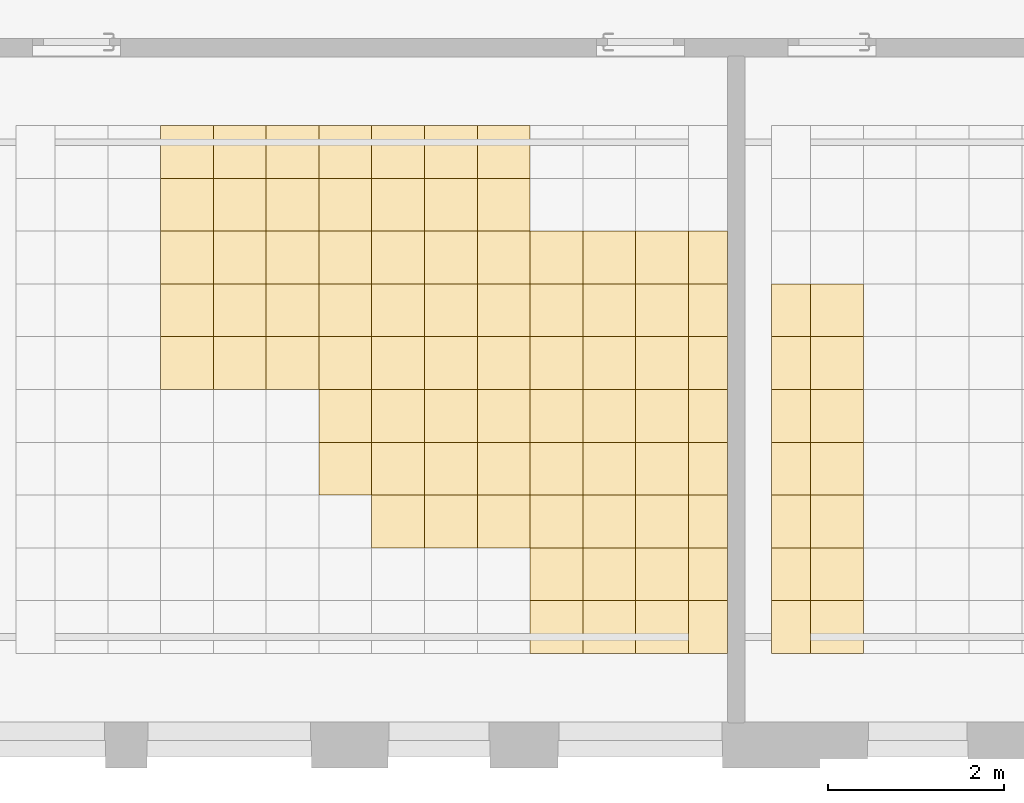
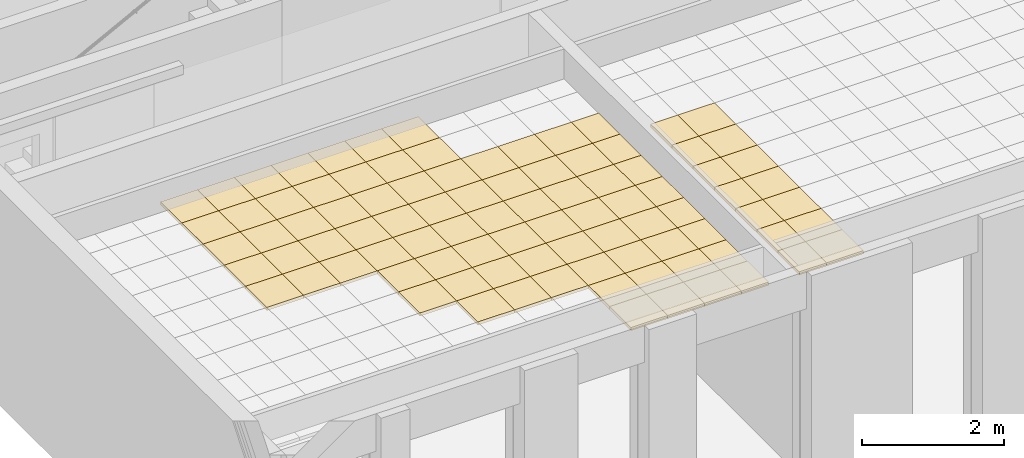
# One storey, part 65 of 79: 92 coverings.
"""IFC2X3 building model written with IfcOpenShell, lengths in millimetres."""

import ifcopenshell
import ifcopenshell.guid

model = None  # the IFC model being written
_history = None  # IfcOwnerHistory: only IFC2X3 demands one
_inside = {}  # id of a spatial element -> (the spatial element, [elements in it])
_under = {}  # id of a project, library or spatial element -> (it, [spatial elements below it])
_declared = {}  # id of a project -> (the project, [libraries it declares])
_typed = {}  # id of a type object -> (the type object, [elements of that type])
_made_of = {}  # id of a material, layer set ... -> (it, [elements and type objects made of it])


def new_model(schema):
    """Start an empty IFC model of exactly this schema.

    Asked for "IFC4X3", IfcOpenShell would pick the latest addendum, in which some entities
    have other attributes; the version numbers below select the first issue.
    IFC2X3 requires an IfcOwnerHistory on every rooted entity: one is made here for all.
    """
    global model, _history
    if schema == "IFC4X3":
        model = ifcopenshell.file(schema_version=(4, 3, 0, 0))
    else:
        model = ifcopenshell.file(schema=schema)
    _inside.clear()
    _under.clear()
    _declared.clear()
    _typed.clear()
    _made_of.clear()
    _history = None
    if model.schema == "IFC2X3":
        org = make("IfcOrganization", Name="unknown")
        user = make(
            "IfcPersonAndOrganization",
            ThePerson=make("IfcPerson", FamilyName="unknown"),
            TheOrganization=org,
        )
        app = make(
            "IfcApplication",
            ApplicationDeveloper=org,
            Version="unknown",
            ApplicationFullName="unknown",
            ApplicationIdentifier="unknown",
        )
        _history = make(
            "IfcOwnerHistory",
            OwningUser=user,
            OwningApplication=app,
            ChangeAction="ADDED",
            CreationDate=0,
        )
    return model


def make(cls, **values):
    """One entity of the class cls with the attributes given. An attribute that is None is left unset."""
    return model.create_entity(
        cls, **{name: value for name, value in values.items() if value is not None}
    )


def entity(cls, *values):
    """Any entity or typed value of the class cls, its attributes in the order of the schema. None: left unset."""
    e = model.create_entity(cls)
    for i, value in enumerate(values):
        if value is not None:
            e[i] = value
    return e


def rooted(cls, **values):
    """An entity with a GlobalId (a new one), such as an element, a storey or a relation."""
    return make(cls, GlobalId=ifcopenshell.guid.new(), OwnerHistory=_history, **values)


def si_unit(unit_type, name, prefix=None):
    """IfcSIUnit, for example si_unit("LENGTHUNIT", "METRE", prefix="MILLI")."""
    return make("IfcSIUnit", UnitType=unit_type, Prefix=prefix, Name=name)


def converted_unit(unit_type, name, factor, base, dimensions=None, offset=None):
    """IfcConversionBasedUnit, such as the inch: factor (a typed value) times the base unit."""
    return make(
        "IfcConversionBasedUnit"
        if offset is None
        else "IfcConversionBasedUnitWithOffset",
        ConversionOffset=offset,
        Dimensions=None
        if dimensions is None
        else entity("IfcDimensionalExponents", *dimensions),
        UnitType=unit_type,
        Name=name,
        ConversionFactor=make(
            "IfcMeasureWithUnit", ValueComponent=factor, UnitComponent=base
        ),
    )


def derived_unit(unit_type, elements):
    """IfcDerivedUnit: a product of units, each with its exponent."""
    return make(
        "IfcDerivedUnit",
        Elements=[
            make("IfcDerivedUnitElement", Unit=unit, Exponent=power)
            for unit, power in elements
        ],
        UnitType=unit_type,
    )


def money_unit(currency):
    """IfcMonetaryUnit."""
    return make("IfcMonetaryUnit", Currency=currency)


def assignment(units):
    """IfcUnitAssignment: the units of a project."""
    return None if units is None else make("IfcUnitAssignment", Units=units)


def point(xyz):
    """IfcCartesianPoint."""
    return None if xyz is None else make("IfcCartesianPoint", Coordinates=xyz)


def direction(xyz):
    """IfcDirection."""
    return None if xyz is None else make("IfcDirection", DirectionRatios=xyz)


def frame(location, z_axis=None, x_axis=None):
    """IfcAxis2Placement3D, a coordinate frame: its origin and axes. An axis left out is left unset."""
    return make(
        "IfcAxis2Placement3D",
        Location=point(location),
        Axis=direction(z_axis),
        RefDirection=direction(x_axis),
    )


def origin_with_axes():
    """The frame at (0, 0, 0) with the z axis (0, 0, 1) and the x axis (1, 0, 0) written out."""
    return frame((0.0, 0.0, 0.0), z_axis=(0.0, 0.0, 1.0), x_axis=(1.0, 0.0, 0.0))


def place(relative_to, where):
    """IfcLocalPlacement: puts the frame where relative to a parent placement (None: the world)."""
    return make(
        "IfcLocalPlacement", PlacementRelTo=relative_to, RelativePlacement=where
    )


def context(
    kind, dimensions, precision=None, world=None, true_north=None, identifier=None
):
    """IfcGeometricRepresentationContext, for example the 3D "Model" context."""
    return make(
        "IfcGeometricRepresentationContext",
        ContextIdentifier=identifier,
        ContextType=kind,
        CoordinateSpaceDimension=dimensions,
        Precision=precision,
        WorldCoordinateSystem=world,
        TrueNorth=true_north,
    )


def subcontext(parent, identifier, kind, view, scale=None):
    """IfcGeometricRepresentationSubContext, for example "Body" below "Model"."""
    return make(
        "IfcGeometricRepresentationSubContext",
        ContextIdentifier=identifier,
        ContextType=kind,
        ParentContext=parent,
        TargetScale=scale,
        TargetView=view,
    )


def project(units=None, contexts=None):
    """IfcProject with its units and contexts."""
    return rooted(
        "IfcProject",
        Name="project",
        RepresentationContexts=contexts,
        UnitsInContext=assignment(units),
    )


def spatial(cls, under=None, at=None, **own):
    """A site, building, storey or space (cls), placed at a placement, below another one or the project."""
    s = rooted(cls, ObjectPlacement=at, **own)
    if under is not None:
        _under.setdefault(under.id(), (under, []))[1].append(s)
    return s


def faces_of(points, faces, orient=None, outer=None):
    """IfcFace entities. A face is a list of loops; a loop is a list of indices into points, from 0.

    orient and outer hold one flag for each loop. By default every Orientation is true, the
    first loop of a face is its IfcFaceOuterBound and the others are IfcFaceBound.
    """
    made = []
    for i, loops in enumerate(faces):
        bounds = []
        for j, loop in enumerate(loops):
            is_outer = j == 0 if outer is None else outer[i][j]
            bounds.append(
                make(
                    "IfcFaceOuterBound" if is_outer else "IfcFaceBound",
                    Bound=make("IfcPolyLoop", Polygon=[points[k] for k in loop]),
                    Orientation=True if orient is None else orient[i][j],
                )
            )
        made.append(make("IfcFace", Bounds=bounds))
    return made


def faceted_brep(points, faces, orient=None, outer=None, voids=None):
    """IfcFacetedBrep: a solid bounded by flat faces; with voids (closed shells), ...WithVoids."""
    shared = [point(p) for p in points]
    hull = make("IfcClosedShell", CfsFaces=faces_of(shared, faces, orient, outer))
    if voids is None:
        return make("IfcFacetedBrep", Outer=hull)
    return make(
        "IfcFacetedBrepWithVoids",
        Outer=hull,
        Voids=[
            make(cls, CfsFaces=faces_of(shared, fs, o, b)) for cls, fs, o, b in voids
        ],
    )


def shape(context_of_items, identifier, shape_type, items):
    """IfcShapeRepresentation: the items that make up one representation, for example the "Body"."""
    return make(
        "IfcShapeRepresentation",
        ContextOfItems=context_of_items,
        RepresentationIdentifier=identifier,
        RepresentationType=shape_type,
        Items=items,
    )


def material(Name=None, Category=None):
    """IfcMaterial."""
    return make("IfcMaterial", Name=Name, Category=Category)


def material_list(materials):
    """IfcMaterialList."""
    return make("IfcMaterialList", Materials=materials)


def made_of(thing, what):
    """Note that an element or type object is made of a material, layer set ...; save() writes the relation."""
    if what is not None:
        _made_of.setdefault(what.id(), (what, []))[1].append(thing)
    return thing


def type_object(cls, material=None, **own):
    """A type object (cls), such as IfcWallType, which elements share."""
    return made_of(rooted(cls, **own), material)


def element(
    cls,
    number,
    at=None,
    inside=None,
    cuts=None,
    type_object=None,
    material=None,
    context=None,
    identifier="Body",
    shape_type=None,
    held_by="IfcProductDefinitionShape",
    body=None,
    shapes=None,
    **own,
):
    """One element of the class cls, such as IfcWall. Its Tag is "e" and its number.

    at: its placement. inside: the storey or other place that contains it. cuts: it is an
    opening in that element (IfcRelVoidsElement). A single representation is given by context,
    identifier, shape_type and body (its items); several are given by shapes. held_by: the class
    of the entity that holds the representations. save() writes the other relations.
    """
    e = rooted(cls, Tag="e%d" % number, ObjectPlacement=at, **own)
    if body is not None:
        shapes = [shape(context, identifier, shape_type, body)]
    if shapes is not None:
        e.Representation = make(held_by, Representations=shapes)
    if inside is not None:
        _inside.setdefault(inside.id(), (inside, []))[1].append(e)
    if cuts is not None:
        rooted(
            "IfcRelVoidsElement", RelatingBuildingElement=cuts, RelatedOpeningElement=e
        )
    if type_object is not None:
        _typed.setdefault(type_object.id(), (type_object, []))[1].append(e)
    return made_of(e, material)


def aggregate(whole, parts):
    """IfcRelAggregates: a whole, such as a stair, and the parts it consists of."""
    return rooted("IfcRelAggregates", RelatingObject=whole, RelatedObjects=parts)


def save(model, path):
    """Write the relations noted so far, then the file.

    IfcRelAggregates (storeys below a building ...), IfcRelContainedInSpatialStructure (elements
    in a storey), IfcRelDefinesByType, IfcRelAssociatesMaterial and IfcRelDeclares: one each for
    every whole, place, type object, material and project.
    """
    for whole, parts in _under.values():
        aggregate(whole, parts)
    for where, things in _inside.values():
        rooted(
            "IfcRelContainedInSpatialStructure",
            RelatedElements=things,
            RelatingStructure=where,
        )
    for kind, things in _typed.values():
        rooted("IfcRelDefinesByType", RelatedObjects=things, RelatingType=kind)
    for what, things in _made_of.values():
        rooted("IfcRelAssociatesMaterial", RelatedObjects=things, RelatingMaterial=what)
    for by, libraries in _declared.values():
        rooted("IfcRelDeclares", RelatingContext=by, RelatedDefinitions=libraries)
    model.write(path)


model = new_model("IFC2X3")

# Units and contexts
model_context = context("Model", 3, precision=0.01, world=origin_with_axes(), true_north=direction((0.0, 1.0)))
body_context = subcontext(model_context, "Body", "Model", "MODEL_VIEW")
ifc_project = project(units=[si_unit("LENGTHUNIT", "METRE", prefix="MILLI"), si_unit("AREAUNIT", "SQUARE_METRE"), si_unit("VOLUMEUNIT", "CUBIC_METRE"), converted_unit("PLANEANGLEUNIT", "DEGREE", entity("IfcPlaneAngleMeasure", 0.0174532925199), si_unit("PLANEANGLEUNIT", "RADIAN"), dimensions=[0, 0, 0, 0, 0, 0, 0]), si_unit("SOLIDANGLEUNIT", "STERADIAN"), money_unit("EUR"), converted_unit("TIMEUNIT", "Year", entity("IfcTimeMeasure", 31556926.0), si_unit("TIMEUNIT", "SECOND"), dimensions=[0, 0, 1, 0, 0, 0, 0]), si_unit("MASSUNIT", "GRAM", prefix="KILO"), si_unit("THERMODYNAMICTEMPERATUREUNIT", "DEGREE_CELSIUS"), si_unit("LUMINOUSINTENSITYUNIT", "LUMEN"), si_unit("ENERGYUNIT", "JOULE", prefix="MEGA"), derived_unit("THERMALCONDUCTANCEUNIT", [(si_unit("POWERUNIT", "WATT"), 1), (si_unit("LENGTHUNIT", "METRE"), -1), (si_unit("THERMODYNAMICTEMPERATUREUNIT", "KELVIN"), -1)]), derived_unit("SPECIFICHEATCAPACITYUNIT", [(si_unit("ENERGYUNIT", "JOULE"), 1), (si_unit("MASSUNIT", "GRAM", prefix="KILO"), -1), (si_unit("THERMODYNAMICTEMPERATUREUNIT", "KELVIN"), -1)]), derived_unit("MASSDENSITYUNIT", [(si_unit("MASSUNIT", "GRAM", prefix="KILO"), 1), (si_unit("VOLUMEUNIT", "CUBIC_METRE"), -1)])], contexts=[model_context])

# Site, building, storey
site_placement = place(None, origin_with_axes())
site = spatial("IfcSite", under=ifc_project, at=site_placement, Name="L.Koidula tn 11b", CompositionType="ELEMENT")
building_placement = place(site_placement, origin_with_axes())
building = spatial("IfcBuilding", under=site, at=building_placement, Name="Rakvere Riigigümnaasium", CompositionType="ELEMENT")
storey_placement = place(building_placement, frame((0.0, 0.0, 3720.0), z_axis=(0.0, 0.0, 1.0), x_axis=(1.0, 0.0, 0.0)))
storey = spatial("IfcBuildingStorey", under=building, at=storey_placement, Name="2.korrus +3,72", CompositionType="ELEMENT", Elevation=3720.0)

# Coverings
ifc_material_1 = material(Name="Karkass")
ifc_material_2 = material(Name="Kipsplaat")
ifc_material_list = material_list([ifc_material_1, ifc_material_2])
covering_type = type_object("IfcCoveringType", Name="SA-LV-Kips-moodul 55", PredefinedType="CEILING")
for number, where, z_axis, x_axis, name in (
    (1, (44844.8404937, 6890.45359412, 2750.0), (0.0, 0.0, 1.0), (1.0, 0.0, 0.0), "L-03"),
    (2, (44844.8404937, 6290.45359412, 2750.0), (0.0, 0.0, 1.0), (1.0, 0.0, 0.0), "L-03"),
    (3, (44844.8404937, 7490.45359412, 2750.0), (0.0, 0.0, 1.0), (1.0, 0.0, 0.0), "L-03"),
    (4, (44844.8404937, 8690.45359412, 2750.0), (0.0, 0.0, 1.0), (1.0, 0.0, 0.0), "L-03"),
    (5, (44844.8404937, 8090.45359412, 2750.0), (0.0, 0.0, 1.0), (1.0, 0.0, 0.0), "L-03"),
    (6, (44844.8404937, 9290.45359412, 2750.0), (0.0, 0.0, 1.0), (1.0, 0.0, 0.0), "L-03"),
    (7, (44844.8404937, 9890.45359412, 2750.0), (0.0, 0.0, 1.0), (1.0, 0.0, 0.0), "L-03"),
):
    element("IfcCovering", number, at=place(storey_placement, frame(where, z_axis=z_axis, x_axis=x_axis)), inside=storey, type_object=covering_type, material=ifc_material_list, Name=name, PredefinedType="CEILING", context=body_context, shape_type="Brep", body=[
        faceted_brep([(599.999948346, 0.0, 12.5), (599.999948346, 0.0, 54.5), (0.0, 0.0, 54.5), (0.0, 0.0, 12.5), (599.999948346, 600.0, 12.5), (599.999948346, 600.0, 54.5), (0.0, 600.0, 54.5), (0.0, 600.0, 12.5)], [[[0, 1, 2, 3]], [[4, 5, 1, 0]], [[2, 1, 5, 6]], [[3, 2, 6, 7]], [[3, 7, 4, 0]], [[7, 6, 5, 4]]]),
        faceted_brep([(0.0, 0.0, 0.0), (599.999948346, 0.0, 0.0), (599.999948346, 0.0, 12.5), (0.0, 0.0, 12.5), (0.0, 600.0, 0.0), (599.999948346, 600.0, 0.0), (599.999948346, 600.0, 12.5), (0.0, 600.0, 12.5)], [[[0, 1, 2, 3]], [[0, 4, 5, 1]], [[1, 5, 6, 2]], [[3, 2, 6, 7]], [[4, 0, 3, 7]], [[5, 4, 7, 6]]]),
    ])
for number, where, z_axis, x_axis, name in (
    (8, (44400.0000025, 8690.45359412, 2750.0), (0.0, 0.0, 1.0), (1.0, 0.0, 0.0), "L-03"),
    (9, (44400.0000025, 8090.45359412, 2750.0), (0.0, 0.0, 1.0), (1.0, 0.0, 0.0), "L-03"),
    (10, (44400.0000025, 7490.45359412, 2750.0), (0.0, 0.0, 1.0), (1.0, 0.0, 0.0), "L-03"),
    (11, (44400.0000025, 9890.45359412, 2750.0), (0.0, 0.0, 1.0), (1.0, 0.0, 0.0), "L-03"),
    (12, (44400.0000025, 6890.45359412, 2750.0), (0.0, 0.0, 1.0), (1.0, 0.0, 0.0), "L-03"),
    (13, (44400.0000025, 6290.45359412, 2750.0), (0.0, 0.0, 1.0), (1.0, 0.0, 0.0), "L-03"),
    (14, (44400.0000025, 9290.45359412, 2750.0), (0.0, 0.0, 1.0), (1.0, 0.0, 0.0), "L-03"),
):
    element("IfcCovering", number, at=place(storey_placement, frame(where, z_axis=z_axis, x_axis=x_axis)), inside=storey, type_object=covering_type, material=ifc_material_list, Name=name, PredefinedType="CEILING", context=body_context, shape_type="Brep", body=[
        faceted_brep([(444.84049122, 0.0, 12.5), (444.84049122, 0.0, 54.5), (0.0, 0.0, 54.5), (0.0, 0.0, 12.5), (444.84049122, 600.0, 12.5), (444.84049122, 600.0, 54.5), (0.0, 600.0, 54.5), (0.0, 600.0, 12.5)], [[[0, 1, 2, 3]], [[4, 5, 1, 0]], [[2, 1, 5, 6]], [[3, 2, 6, 7]], [[3, 7, 4, 0]], [[7, 6, 5, 4]]]),
        faceted_brep([(0.0, 0.0, 0.0), (444.84049122, 0.0, 0.0), (444.84049122, 0.0, 12.5), (0.0, 0.0, 12.5), (0.0, 600.0, 0.0), (444.84049122, 600.0, 0.0), (444.84049122, 600.0, 12.5), (0.0, 600.0, 12.5)], [[[0, 1, 2, 3]], [[0, 4, 5, 1]], [[1, 5, 6, 2]], [[3, 2, 6, 7]], [[4, 0, 3, 7]], [[5, 4, 7, 6]]]),
    ])
covering_1_placement = place(storey_placement, frame((39255.1638647, 11090.4535941, 2750.0), z_axis=(0.0, 0.0, 1.0), x_axis=(1.0, 0.0, 0.0)))
element("IfcCovering", 15, at=covering_1_placement, inside=storey, type_object=covering_type, material=ifc_material_list, Name="L-03", PredefinedType="CEILING", context=body_context, shape_type="Brep", body=[
    faceted_brep([(600.0, 0.0, 12.5), (600.0, 0.0, 54.5), (0.0, 0.0, 54.5), (0.0, 0.0, 12.5), (600.0, 600.0, 12.5), (600.0, 600.0, 54.5), (0.0, 600.0, 54.5), (0.0, 600.0, 12.5)], [[[0, 1, 2, 3]], [[4, 5, 1, 0]], [[2, 1, 5, 6]], [[3, 2, 6, 7]], [[3, 7, 4, 0]], [[7, 6, 5, 4]]]),
    faceted_brep([(0.0, 0.0, 0.0), (600.0, 0.0, 0.0), (600.0, 0.0, 12.5), (0.0, 0.0, 12.5), (0.0, 600.0, 0.0), (600.0, 600.0, 0.0), (600.0, 600.0, 12.5), (0.0, 600.0, 12.5)], [[[0, 1, 2, 3]], [[0, 4, 5, 1]], [[1, 5, 6, 2]], [[3, 2, 6, 7]], [[4, 0, 3, 7]], [[5, 4, 7, 6]]]),
])
covering_2_placement = place(storey_placement, frame((37455.163968, 11090.4535941, 2750.0), z_axis=(0.0, 0.0, 1.0), x_axis=(1.0, 0.0, 0.0)))
element("IfcCovering", 16, at=covering_2_placement, inside=storey, type_object=covering_type, material=ifc_material_list, Name="L-03", PredefinedType="CEILING", context=body_context, shape_type="Brep", body=[
    faceted_brep([(599.999948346, 0.0, 12.5), (599.999948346, 0.0, 54.5), (0.0, 0.0, 54.5), (0.0, 0.0, 12.5), (599.999948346, 600.0, 12.5), (599.999948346, 600.0, 54.5), (0.0, 600.0, 54.5), (0.0, 600.0, 12.5)], [[[0, 1, 2, 3]], [[4, 5, 1, 0]], [[2, 1, 5, 6]], [[3, 2, 6, 7]], [[3, 7, 4, 0]], [[7, 6, 5, 4]]]),
    faceted_brep([(0.0, 0.0, 0.0), (599.999948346, 0.0, 0.0), (599.999948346, 0.0, 12.5), (0.0, 0.0, 12.5), (0.0, 600.0, 0.0), (599.999948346, 600.0, 0.0), (599.999948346, 600.0, 12.5), (0.0, 600.0, 12.5)], [[[0, 1, 2, 3]], [[0, 4, 5, 1]], [[1, 5, 6, 2]], [[3, 2, 6, 7]], [[4, 0, 3, 7]], [[5, 4, 7, 6]]]),
])
for number, where, z_axis, x_axis, name in (
    (17, (40455.163813, 9890.45359412, 2750.0), (0.0, 0.0, 1.0), (1.0, 0.0, 0.0), "L-03"),
    (18, (41655.1637613, 9890.45359412, 2750.0), (0.0, 0.0, 1.0), (1.0, 0.0, 0.0), "L-03"),
    (19, (41655.1637613, 9290.45359412, 2750.0), (0.0, 0.0, 1.0), (1.0, 0.0, 0.0), "L-03"),
    (20, (40455.163813, 8090.45359412, 2750.0), (0.0, 0.0, 1.0), (1.0, 0.0, 0.0), "L-03"),
    (21, (41655.1637613, 8690.45359412, 2750.0), (0.0, 0.0, 1.0), (1.0, 0.0, 0.0), "L-03"),
    (22, (41655.1637613, 8090.45359412, 2750.0), (0.0, 0.0, 1.0), (1.0, 0.0, 0.0), "L-03"),
    (23, (41655.1637613, 7490.45359412, 2750.0), (0.0, 0.0, 1.0), (1.0, 0.0, 0.0), "L-03"),
    (24, (42855.1637097, 7490.45359412, 2750.0), (0.0, 0.0, 1.0), (1.0, 0.0, 0.0), "L-03"),
):
    element("IfcCovering", number, at=place(storey_placement, frame(where, z_axis=z_axis, x_axis=x_axis)), inside=storey, type_object=covering_type, material=ifc_material_list, Name=name, PredefinedType="CEILING", context=body_context, shape_type="Brep", body=[
        faceted_brep([(600.0, 0.0, 12.5), (600.0, 0.0, 54.5), (0.0, 0.0, 54.5), (0.0, 0.0, 12.5), (600.0, 600.0, 12.5), (600.0, 600.0, 54.5), (0.0, 600.0, 54.5), (0.0, 600.0, 12.5)], [[[0, 1, 2, 3]], [[4, 5, 1, 0]], [[2, 1, 5, 6]], [[3, 2, 6, 7]], [[3, 7, 4, 0]], [[7, 6, 5, 4]]]),
        faceted_brep([(0.0, 0.0, 0.0), (600.0, 0.0, 0.0), (600.0, 0.0, 12.5), (0.0, 0.0, 12.5), (0.0, 600.0, 0.0), (600.0, 600.0, 0.0), (600.0, 600.0, 12.5), (0.0, 600.0, 12.5)], [[[0, 1, 2, 3]], [[0, 4, 5, 1]], [[1, 5, 6, 2]], [[3, 2, 6, 7]], [[4, 0, 3, 7]], [[5, 4, 7, 6]]]),
    ])
covering_3_placement = place(storey_placement, frame((42255.1637613, 6890.45359412, 2750.0), z_axis=(0.0, 0.0, 1.0), x_axis=(1.0, 0.0, 0.0)))
element("IfcCovering", 25, at=covering_3_placement, inside=storey, type_object=covering_type, material=ifc_material_list, Name="L-03", PredefinedType="CEILING", context=body_context, shape_type="Brep", body=[
    faceted_brep([(599.999948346, 0.0, 12.5), (599.999948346, 0.0, 54.5), (0.0, 0.0, 54.5), (0.0, 0.0, 12.5), (599.999948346, 600.0, 12.5), (599.999948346, 600.0, 54.5), (0.0, 600.0, 54.5), (0.0, 600.0, 12.5)], [[[0, 1, 2, 3]], [[4, 5, 1, 0]], [[2, 1, 5, 6]], [[3, 2, 6, 7]], [[3, 7, 4, 0]], [[7, 6, 5, 4]]]),
    faceted_brep([(0.0, 0.0, 0.0), (599.999948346, 0.0, 0.0), (599.999948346, 0.0, 12.5), (0.0, 0.0, 12.5), (0.0, 600.0, 0.0), (599.999948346, 600.0, 0.0), (599.999948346, 600.0, 12.5), (0.0, 600.0, 12.5)], [[[0, 1, 2, 3]], [[0, 4, 5, 1]], [[1, 5, 6, 2]], [[3, 2, 6, 7]], [[4, 0, 3, 7]], [[5, 4, 7, 6]]]),
])
for number, where, z_axis, x_axis, name in (
    (26, (42855.1637097, 9290.45359412, 2750.0), (0.0, 0.0, 1.0), (1.0, 0.0, 0.0), "L-03"),
    (27, (42855.1637097, 8690.45359412, 2750.0), (0.0, 0.0, 1.0), (1.0, 0.0, 0.0), "L-03"),
):
    element("IfcCovering", number, at=place(storey_placement, frame(where, z_axis=z_axis, x_axis=x_axis)), inside=storey, type_object=covering_type, material=ifc_material_list, Name=name, PredefinedType="CEILING", context=body_context, shape_type="Brep", body=[
        faceted_brep([(600.0, 0.0, 12.5), (600.0, 0.0, 54.5), (0.0, 0.0, 54.5), (0.0, 0.0, 12.5), (600.0, 600.0, 12.5), (600.0, 600.0, 54.5), (0.0, 600.0, 54.5), (0.0, 600.0, 12.5)], [[[0, 1, 2, 3]], [[4, 5, 1, 0]], [[2, 1, 5, 6]], [[3, 2, 6, 7]], [[3, 7, 4, 0]], [[7, 6, 5, 4]]]),
        faceted_brep([(0.0, 0.0, 0.0), (600.0, 0.0, 0.0), (600.0, 0.0, 12.5), (0.0, 0.0, 12.5), (0.0, 600.0, 0.0), (600.0, 600.0, 0.0), (600.0, 600.0, 12.5), (0.0, 600.0, 12.5)], [[[0, 1, 2, 3]], [[0, 4, 5, 1]], [[1, 5, 6, 2]], [[3, 2, 6, 7]], [[4, 0, 3, 7]], [[5, 4, 7, 6]]]),
    ])
covering_4_placement = place(storey_placement, frame((42255.1637613, 6290.45359412, 2750.0), z_axis=(0.0, 0.0, 1.0), x_axis=(1.0, 0.0, 0.0)))
element("IfcCovering", 28, at=covering_4_placement, inside=storey, type_object=covering_type, material=ifc_material_list, Name="L-03", PredefinedType="CEILING", context=body_context, shape_type="Brep", body=[
    faceted_brep([(599.999948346, 0.0, 12.5), (599.999948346, 0.0, 54.5), (0.0, 0.0, 54.5), (0.0, 0.0, 12.5), (599.999948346, 600.0, 12.5), (599.999948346, 600.0, 54.5), (0.0, 600.0, 54.5), (0.0, 600.0, 12.5)], [[[0, 1, 2, 3]], [[4, 5, 1, 0]], [[2, 1, 5, 6]], [[3, 2, 6, 7]], [[3, 7, 4, 0]], [[7, 6, 5, 4]]]),
    faceted_brep([(0.0, 0.0, 0.0), (599.999948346, 0.0, 0.0), (599.999948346, 0.0, 12.5), (0.0, 0.0, 12.5), (0.0, 600.0, 0.0), (599.999948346, 600.0, 0.0), (599.999948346, 600.0, 12.5), (0.0, 600.0, 12.5)], [[[0, 1, 2, 3]], [[0, 4, 5, 1]], [[1, 5, 6, 2]], [[3, 2, 6, 7]], [[4, 0, 3, 7]], [[5, 4, 7, 6]]]),
])
for number, where, z_axis, x_axis, name in (
    (29, (42855.1637097, 8090.45359412, 2750.0), (0.0, 0.0, 1.0), (1.0, 0.0, 0.0), "L-03"),
    (30, (42855.1637097, 9890.45359412, 2750.0), (0.0, 0.0, 1.0), (1.0, 0.0, 0.0), "L-03"),
    (31, (42855.1637097, 10490.4535941, 2750.0), (0.0, 0.0, 1.0), (1.0, 0.0, 0.0), "L-03"),
    (32, (42855.1637097, 6290.45359412, 2750.0), (0.0, 0.0, 1.0), (1.0, 0.0, 0.0), "L-03"),
    (33, (42855.1637097, 6890.45359412, 2750.0), (0.0, 0.0, 1.0), (1.0, 0.0, 0.0), "L-03"),
):
    element("IfcCovering", number, at=place(storey_placement, frame(where, z_axis=z_axis, x_axis=x_axis)), inside=storey, type_object=covering_type, material=ifc_material_list, Name=name, PredefinedType="CEILING", context=body_context, shape_type="Brep", body=[
        faceted_brep([(600.0, 0.0, 12.5), (600.0, 0.0, 54.5), (0.0, 0.0, 54.5), (0.0, 0.0, 12.5), (600.0, 600.0, 12.5), (600.0, 600.0, 54.5), (0.0, 600.0, 54.5), (0.0, 600.0, 12.5)], [[[0, 1, 2, 3]], [[4, 5, 1, 0]], [[2, 1, 5, 6]], [[3, 2, 6, 7]], [[3, 7, 4, 0]], [[7, 6, 5, 4]]]),
        faceted_brep([(0.0, 0.0, 0.0), (600.0, 0.0, 0.0), (600.0, 0.0, 12.5), (0.0, 0.0, 12.5), (0.0, 600.0, 0.0), (600.0, 600.0, 0.0), (600.0, 600.0, 12.5), (0.0, 600.0, 12.5)], [[[0, 1, 2, 3]], [[0, 4, 5, 1]], [[1, 5, 6, 2]], [[3, 2, 6, 7]], [[4, 0, 3, 7]], [[5, 4, 7, 6]]]),
    ])
covering_5_placement = place(storey_placement, frame((42255.1637613, 7490.45359412, 2750.0), z_axis=(0.0, 0.0, 1.0), x_axis=(1.0, 0.0, 0.0)))
element("IfcCovering", 34, at=covering_5_placement, inside=storey, type_object=covering_type, material=ifc_material_list, Name="L-03", PredefinedType="CEILING", context=body_context, shape_type="Brep", body=[
    faceted_brep([(599.999948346, 0.0, 12.5), (599.999948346, 0.0, 54.5), (0.0, 0.0, 54.5), (0.0, 0.0, 12.5), (599.999948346, 600.0, 12.5), (599.999948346, 600.0, 54.5), (0.0, 600.0, 54.5), (0.0, 600.0, 12.5)], [[[0, 1, 2, 3]], [[4, 5, 1, 0]], [[2, 1, 5, 6]], [[3, 2, 6, 7]], [[3, 7, 4, 0]], [[7, 6, 5, 4]]]),
    faceted_brep([(0.0, 0.0, 0.0), (599.999948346, 0.0, 0.0), (599.999948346, 0.0, 12.5), (0.0, 0.0, 12.5), (0.0, 600.0, 0.0), (599.999948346, 600.0, 0.0), (599.999948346, 600.0, 12.5), (0.0, 600.0, 12.5)], [[[0, 1, 2, 3]], [[0, 4, 5, 1]], [[1, 5, 6, 2]], [[3, 2, 6, 7]], [[4, 0, 3, 7]], [[5, 4, 7, 6]]]),
])
covering_6_placement = place(storey_placement, frame((41655.1637613, 6290.45359412, 2750.0), z_axis=(0.0, 0.0, 1.0), x_axis=(1.0, 0.0, 0.0)))
element("IfcCovering", 35, at=covering_6_placement, inside=storey, type_object=covering_type, material=ifc_material_list, Name="L-03", PredefinedType="CEILING", context=body_context, shape_type="Brep", body=[
    faceted_brep([(600.0, 0.0, 12.5), (600.0, 0.0, 54.5), (0.0, 0.0, 54.5), (0.0, 0.0, 12.5), (600.0, 600.0, 12.5), (600.0, 600.0, 54.5), (0.0, 600.0, 54.5), (0.0, 600.0, 12.5)], [[[0, 1, 2, 3]], [[4, 5, 1, 0]], [[2, 1, 5, 6]], [[3, 2, 6, 7]], [[3, 7, 4, 0]], [[7, 6, 5, 4]]]),
    faceted_brep([(0.0, 0.0, 0.0), (600.0, 0.0, 0.0), (600.0, 0.0, 12.5), (0.0, 0.0, 12.5), (0.0, 600.0, 0.0), (600.0, 600.0, 0.0), (600.0, 600.0, 12.5), (0.0, 600.0, 12.5)], [[[0, 1, 2, 3]], [[0, 4, 5, 1]], [[1, 5, 6, 2]], [[3, 2, 6, 7]], [[4, 0, 3, 7]], [[5, 4, 7, 6]]]),
])
covering_7_placement = place(storey_placement, frame((42255.1637613, 8090.45359412, 2750.0), z_axis=(0.0, 0.0, 1.0), x_axis=(1.0, 0.0, 0.0)))
element("IfcCovering", 36, at=covering_7_placement, inside=storey, type_object=covering_type, material=ifc_material_list, Name="L-03", PredefinedType="CEILING", context=body_context, shape_type="Brep", body=[
    faceted_brep([(599.999948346, 0.0, 12.5), (599.999948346, 0.0, 54.5), (0.0, 0.0, 54.5), (0.0, 0.0, 12.5), (599.999948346, 600.0, 12.5), (599.999948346, 600.0, 54.5), (0.0, 600.0, 54.5), (0.0, 600.0, 12.5)], [[[0, 1, 2, 3]], [[4, 5, 1, 0]], [[2, 1, 5, 6]], [[3, 2, 6, 7]], [[3, 7, 4, 0]], [[7, 6, 5, 4]]]),
    faceted_brep([(0.0, 0.0, 0.0), (599.999948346, 0.0, 0.0), (599.999948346, 0.0, 12.5), (0.0, 0.0, 12.5), (0.0, 600.0, 0.0), (599.999948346, 600.0, 0.0), (599.999948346, 600.0, 12.5), (0.0, 600.0, 12.5)], [[[0, 1, 2, 3]], [[0, 4, 5, 1]], [[1, 5, 6, 2]], [[3, 2, 6, 7]], [[4, 0, 3, 7]], [[5, 4, 7, 6]]]),
])
for number, where, z_axis, x_axis, name in (
    (37, (40455.163813, 8690.45359412, 2750.0), (0.0, 0.0, 1.0), (1.0, 0.0, 0.0), "L-03"),
    (38, (41655.1637613, 6890.45359412, 2750.0), (0.0, 0.0, 1.0), (1.0, 0.0, 0.0), "L-03"),
):
    element("IfcCovering", number, at=place(storey_placement, frame(where, z_axis=z_axis, x_axis=x_axis)), inside=storey, type_object=covering_type, material=ifc_material_list, Name=name, PredefinedType="CEILING", context=body_context, shape_type="Brep", body=[
        faceted_brep([(600.0, 0.0, 12.5), (600.0, 0.0, 54.5), (0.0, 0.0, 54.5), (0.0, 0.0, 12.5), (600.0, 600.0, 12.5), (600.0, 600.0, 54.5), (0.0, 600.0, 54.5), (0.0, 600.0, 12.5)], [[[0, 1, 2, 3]], [[4, 5, 1, 0]], [[2, 1, 5, 6]], [[3, 2, 6, 7]], [[3, 7, 4, 0]], [[7, 6, 5, 4]]]),
        faceted_brep([(0.0, 0.0, 0.0), (600.0, 0.0, 0.0), (600.0, 0.0, 12.5), (0.0, 0.0, 12.5), (0.0, 600.0, 0.0), (600.0, 600.0, 0.0), (600.0, 600.0, 12.5), (0.0, 600.0, 12.5)], [[[0, 1, 2, 3]], [[0, 4, 5, 1]], [[1, 5, 6, 2]], [[3, 2, 6, 7]], [[4, 0, 3, 7]], [[5, 4, 7, 6]]]),
    ])
covering_8_placement = place(storey_placement, frame((42255.1637613, 8690.45359412, 2750.0), z_axis=(0.0, 0.0, 1.0), x_axis=(1.0, 0.0, 0.0)))
element("IfcCovering", 39, at=covering_8_placement, inside=storey, type_object=covering_type, material=ifc_material_list, Name="L-03", PredefinedType="CEILING", context=body_context, shape_type="Brep", body=[
    faceted_brep([(599.999948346, 0.0, 12.5), (599.999948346, 0.0, 54.5), (0.0, 0.0, 54.5), (0.0, 0.0, 12.5), (599.999948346, 600.0, 12.5), (599.999948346, 600.0, 54.5), (0.0, 600.0, 54.5), (0.0, 600.0, 12.5)], [[[0, 1, 2, 3]], [[4, 5, 1, 0]], [[2, 1, 5, 6]], [[3, 2, 6, 7]], [[3, 7, 4, 0]], [[7, 6, 5, 4]]]),
    faceted_brep([(0.0, 0.0, 0.0), (599.999948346, 0.0, 0.0), (599.999948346, 0.0, 12.5), (0.0, 0.0, 12.5), (0.0, 600.0, 0.0), (599.999948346, 600.0, 0.0), (599.999948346, 600.0, 12.5), (0.0, 600.0, 12.5)], [[[0, 1, 2, 3]], [[0, 4, 5, 1]], [[1, 5, 6, 2]], [[3, 2, 6, 7]], [[4, 0, 3, 7]], [[5, 4, 7, 6]]]),
])
covering_9_placement = place(storey_placement, frame((41655.1637613, 10490.4535941, 2750.0), z_axis=(0.0, 0.0, 1.0), x_axis=(1.0, 0.0, 0.0)))
element("IfcCovering", 40, at=covering_9_placement, inside=storey, type_object=covering_type, material=ifc_material_list, Name="L-03", PredefinedType="CEILING", context=body_context, shape_type="Brep", body=[
    faceted_brep([(600.0, 0.0, 12.5), (600.0, 0.0, 54.5), (0.0, 0.0, 54.5), (0.0, 0.0, 12.5), (600.0, 600.0, 12.5), (600.0, 600.0, 54.5), (0.0, 600.0, 54.5), (0.0, 600.0, 12.5)], [[[0, 1, 2, 3]], [[4, 5, 1, 0]], [[2, 1, 5, 6]], [[3, 2, 6, 7]], [[3, 7, 4, 0]], [[7, 6, 5, 4]]]),
    faceted_brep([(0.0, 0.0, 0.0), (600.0, 0.0, 0.0), (600.0, 0.0, 12.5), (0.0, 0.0, 12.5), (0.0, 600.0, 0.0), (600.0, 600.0, 0.0), (600.0, 600.0, 12.5), (0.0, 600.0, 12.5)], [[[0, 1, 2, 3]], [[0, 4, 5, 1]], [[1, 5, 6, 2]], [[3, 2, 6, 7]], [[4, 0, 3, 7]], [[5, 4, 7, 6]]]),
])
for number, where, z_axis, x_axis, name in (
    (41, (42255.1637613, 9290.45359412, 2750.0), (0.0, 0.0, 1.0), (1.0, 0.0, 0.0), "L-03"),
    (42, (42255.1637613, 9890.45359412, 2750.0), (0.0, 0.0, 1.0), (1.0, 0.0, 0.0), "L-03"),
    (43, (42255.1637613, 10490.4535941, 2750.0), (0.0, 0.0, 1.0), (1.0, 0.0, 0.0), "L-03"),
):
    element("IfcCovering", number, at=place(storey_placement, frame(where, z_axis=z_axis, x_axis=x_axis)), inside=storey, type_object=covering_type, material=ifc_material_list, Name=name, PredefinedType="CEILING", context=body_context, shape_type="Brep", body=[
        faceted_brep([(599.999948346, 0.0, 12.5), (599.999948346, 0.0, 54.5), (0.0, 0.0, 54.5), (0.0, 0.0, 12.5), (599.999948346, 600.0, 12.5), (599.999948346, 600.0, 54.5), (0.0, 600.0, 54.5), (0.0, 600.0, 12.5)], [[[0, 1, 2, 3]], [[4, 5, 1, 0]], [[2, 1, 5, 6]], [[3, 2, 6, 7]], [[3, 7, 4, 0]], [[7, 6, 5, 4]]]),
        faceted_brep([(0.0, 0.0, 0.0), (599.999948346, 0.0, 0.0), (599.999948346, 0.0, 12.5), (0.0, 0.0, 12.5), (0.0, 600.0, 0.0), (599.999948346, 600.0, 0.0), (599.999948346, 600.0, 12.5), (0.0, 600.0, 12.5)], [[[0, 1, 2, 3]], [[0, 4, 5, 1]], [[1, 5, 6, 2]], [[3, 2, 6, 7]], [[4, 0, 3, 7]], [[5, 4, 7, 6]]]),
    ])
for number, where, z_axis, x_axis, name in (
    (44, (40455.163813, 9290.45359412, 2750.0), (0.0, 0.0, 1.0), (1.0, 0.0, 0.0), "L-03"),
    (45, (40455.163813, 11690.4535941, 2750.0), (0.0, 0.0, 1.0), (1.0, 0.0, 0.0), "L-03"),
    (46, (40455.163813, 11090.4535941, 2750.0), (0.0, 0.0, 1.0), (1.0, 0.0, 0.0), "L-03"),
    (47, (40455.163813, 10490.4535941, 2750.0), (0.0, 0.0, 1.0), (1.0, 0.0, 0.0), "L-03"),
):
    element("IfcCovering", number, at=place(storey_placement, frame(where, z_axis=z_axis, x_axis=x_axis)), inside=storey, type_object=covering_type, material=ifc_material_list, Name=name, PredefinedType="CEILING", context=body_context, shape_type="Brep", body=[
        faceted_brep([(600.0, 0.0, 12.5), (600.0, 0.0, 54.5), (0.0, 0.0, 54.5), (0.0, 0.0, 12.5), (600.0, 600.0, 12.5), (600.0, 600.0, 54.5), (0.0, 600.0, 54.5), (0.0, 600.0, 12.5)], [[[0, 1, 2, 3]], [[4, 5, 1, 0]], [[2, 1, 5, 6]], [[3, 2, 6, 7]], [[3, 7, 4, 0]], [[7, 6, 5, 4]]]),
        faceted_brep([(0.0, 0.0, 0.0), (600.0, 0.0, 0.0), (600.0, 0.0, 12.5), (0.0, 0.0, 12.5), (0.0, 600.0, 0.0), (600.0, 600.0, 0.0), (600.0, 600.0, 12.5), (0.0, 600.0, 12.5)], [[[0, 1, 2, 3]], [[0, 4, 5, 1]], [[1, 5, 6, 2]], [[3, 2, 6, 7]], [[4, 0, 3, 7]], [[5, 4, 7, 6]]]),
    ])
for number, where, z_axis, x_axis, name in (
    (48, (38655.1639163, 11690.4535941, 2750.0), (0.0, 0.0, 1.0), (1.0, 0.0, 0.0), "L-03"),
    (49, (37455.163968, 10490.4535941, 2750.0), (0.0, 0.0, 1.0), (1.0, 0.0, 0.0), "L-03"),
    (50, (37455.163968, 9890.45359412, 2750.0), (0.0, 0.0, 1.0), (1.0, 0.0, 0.0), "L-03"),
    (51, (41055.163813, 11690.4535941, 2750.0), (0.0, 0.0, 1.0), (1.0, 0.0, 0.0), "L-03"),
    (52, (41055.163813, 7490.45359412, 2750.0), (0.0, 0.0, 1.0), (1.0, 0.0, 0.0), "L-03"),
    (53, (38655.1639163, 9290.45359412, 2750.0), (0.0, 0.0, 1.0), (1.0, 0.0, 0.0), "L-03"),
    (54, (38655.1639163, 9890.45359412, 2750.0), (0.0, 0.0, 1.0), (1.0, 0.0, 0.0), "L-03"),
    (55, (41055.163813, 8090.45359412, 2750.0), (0.0, 0.0, 1.0), (1.0, 0.0, 0.0), "L-03"),
    (56, (38655.1639163, 11090.4535941, 2750.0), (0.0, 0.0, 1.0), (1.0, 0.0, 0.0), "L-03"),
    (57, (41055.163813, 8690.45359412, 2750.0), (0.0, 0.0, 1.0), (1.0, 0.0, 0.0), "L-03"),
    (58, (38655.1639163, 10490.4535941, 2750.0), (0.0, 0.0, 1.0), (1.0, 0.0, 0.0), "L-03"),
    (59, (41055.163813, 9290.45359412, 2750.0), (0.0, 0.0, 1.0), (1.0, 0.0, 0.0), "L-03"),
    (60, (41055.163813, 9890.45359412, 2750.0), (0.0, 0.0, 1.0), (1.0, 0.0, 0.0), "L-03"),
    (61, (41055.163813, 10490.4535941, 2750.0), (0.0, 0.0, 1.0), (1.0, 0.0, 0.0), "L-03"),
    (62, (41055.163813, 11090.4535941, 2750.0), (0.0, 0.0, 1.0), (1.0, 0.0, 0.0), "L-03"),
    (63, (37455.163968, 9290.45359412, 2750.0), (0.0, 0.0, 1.0), (1.0, 0.0, 0.0), "L-03"),
    (64, (39855.1638647, 11090.4535941, 2750.0), (0.0, 0.0, 1.0), (1.0, 0.0, 0.0), "L-03"),
):
    element("IfcCovering", number, at=place(storey_placement, frame(where, z_axis=z_axis, x_axis=x_axis)), inside=storey, type_object=covering_type, material=ifc_material_list, Name=name, PredefinedType="CEILING", context=body_context, shape_type="Brep", body=[
        faceted_brep([(599.999948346, 0.0, 12.5), (599.999948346, 0.0, 54.5), (0.0, 0.0, 54.5), (0.0, 0.0, 12.5), (599.999948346, 600.0, 12.5), (599.999948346, 600.0, 54.5), (0.0, 600.0, 54.5), (0.0, 600.0, 12.5)], [[[0, 1, 2, 3]], [[4, 5, 1, 0]], [[2, 1, 5, 6]], [[3, 2, 6, 7]], [[3, 7, 4, 0]], [[7, 6, 5, 4]]]),
        faceted_brep([(0.0, 0.0, 0.0), (599.999948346, 0.0, 0.0), (599.999948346, 0.0, 12.5), (0.0, 0.0, 12.5), (0.0, 600.0, 0.0), (599.999948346, 600.0, 0.0), (599.999948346, 600.0, 12.5), (0.0, 600.0, 12.5)], [[[0, 1, 2, 3]], [[0, 4, 5, 1]], [[1, 5, 6, 2]], [[3, 2, 6, 7]], [[4, 0, 3, 7]], [[5, 4, 7, 6]]]),
    ])
for number, where, z_axis, x_axis, name in (
    (65, (39255.1638647, 11690.4535941, 2750.0), (0.0, 0.0, 1.0), (1.0, 0.0, 0.0), "L-03"),
    (66, (39255.1638647, 9890.45359412, 2750.0), (0.0, 0.0, 1.0), (1.0, 0.0, 0.0), "L-03"),
    (67, (39255.1638647, 10490.4535941, 2750.0), (0.0, 0.0, 1.0), (1.0, 0.0, 0.0), "L-03"),
):
    element("IfcCovering", number, at=place(storey_placement, frame(where, z_axis=z_axis, x_axis=x_axis)), inside=storey, type_object=covering_type, material=ifc_material_list, Name=name, PredefinedType="CEILING", context=body_context, shape_type="Brep", body=[
        faceted_brep([(600.0, 0.0, 12.5), (600.0, 0.0, 54.5), (0.0, 0.0, 54.5), (0.0, 0.0, 12.5), (600.0, 600.0, 12.5), (600.0, 600.0, 54.5), (0.0, 600.0, 54.5), (0.0, 600.0, 12.5)], [[[0, 1, 2, 3]], [[4, 5, 1, 0]], [[2, 1, 5, 6]], [[3, 2, 6, 7]], [[3, 7, 4, 0]], [[7, 6, 5, 4]]]),
        faceted_brep([(0.0, 0.0, 0.0), (600.0, 0.0, 0.0), (600.0, 0.0, 12.5), (0.0, 0.0, 12.5), (0.0, 600.0, 0.0), (600.0, 600.0, 0.0), (600.0, 600.0, 12.5), (0.0, 600.0, 12.5)], [[[0, 1, 2, 3]], [[0, 4, 5, 1]], [[1, 5, 6, 2]], [[3, 2, 6, 7]], [[4, 0, 3, 7]], [[5, 4, 7, 6]]]),
    ])
covering_10_placement = place(storey_placement, frame((39855.1638647, 10490.4535941, 2750.0), z_axis=(0.0, 0.0, 1.0), x_axis=(1.0, 0.0, 0.0)))
element("IfcCovering", 68, at=covering_10_placement, inside=storey, type_object=covering_type, material=ifc_material_list, Name="L-03", PredefinedType="CEILING", context=body_context, shape_type="Brep", body=[
    faceted_brep([(599.999948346, 0.0, 12.5), (599.999948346, 0.0, 54.5), (0.0, 0.0, 54.5), (0.0, 0.0, 12.5), (599.999948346, 600.0, 12.5), (599.999948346, 600.0, 54.5), (0.0, 600.0, 54.5), (0.0, 600.0, 12.5)], [[[0, 1, 2, 3]], [[4, 5, 1, 0]], [[2, 1, 5, 6]], [[3, 2, 6, 7]], [[3, 7, 4, 0]], [[7, 6, 5, 4]]]),
    faceted_brep([(0.0, 0.0, 0.0), (599.999948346, 0.0, 0.0), (599.999948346, 0.0, 12.5), (0.0, 0.0, 12.5), (0.0, 600.0, 0.0), (599.999948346, 600.0, 0.0), (599.999948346, 600.0, 12.5), (0.0, 600.0, 12.5)], [[[0, 1, 2, 3]], [[0, 4, 5, 1]], [[1, 5, 6, 2]], [[3, 2, 6, 7]], [[4, 0, 3, 7]], [[5, 4, 7, 6]]]),
])
for number, where, z_axis, x_axis, name in (
    (69, (39255.1638647, 9290.45359412, 2750.0), (0.0, 0.0, 1.0), (1.0, 0.0, 0.0), "L-03"),
    (70, (39255.1638647, 8690.45359412, 2750.0), (0.0, 0.0, 1.0), (1.0, 0.0, 0.0), "L-03"),
    (71, (38055.1639163, 11690.4535941, 2750.0), (0.0, 0.0, 1.0), (1.0, 0.0, 0.0), "L-03"),
):
    element("IfcCovering", number, at=place(storey_placement, frame(where, z_axis=z_axis, x_axis=x_axis)), inside=storey, type_object=covering_type, material=ifc_material_list, Name=name, PredefinedType="CEILING", context=body_context, shape_type="Brep", body=[
        faceted_brep([(600.0, 0.0, 12.5), (600.0, 0.0, 54.5), (0.0, 0.0, 54.5), (0.0, 0.0, 12.5), (600.0, 600.0, 12.5), (600.0, 600.0, 54.5), (0.0, 600.0, 54.5), (0.0, 600.0, 12.5)], [[[0, 1, 2, 3]], [[4, 5, 1, 0]], [[2, 1, 5, 6]], [[3, 2, 6, 7]], [[3, 7, 4, 0]], [[7, 6, 5, 4]]]),
        faceted_brep([(0.0, 0.0, 0.0), (600.0, 0.0, 0.0), (600.0, 0.0, 12.5), (0.0, 0.0, 12.5), (0.0, 600.0, 0.0), (600.0, 600.0, 0.0), (600.0, 600.0, 12.5), (0.0, 600.0, 12.5)], [[[0, 1, 2, 3]], [[0, 4, 5, 1]], [[1, 5, 6, 2]], [[3, 2, 6, 7]], [[4, 0, 3, 7]], [[5, 4, 7, 6]]]),
    ])
for number, where, z_axis, x_axis, name in (
    (72, (39855.1638647, 9290.45359412, 2750.0), (0.0, 0.0, 1.0), (1.0, 0.0, 0.0), "L-03"),
    (73, (37455.163968, 11690.4535941, 2750.0), (0.0, 0.0, 1.0), (1.0, 0.0, 0.0), "L-03"),
):
    element("IfcCovering", number, at=place(storey_placement, frame(where, z_axis=z_axis, x_axis=x_axis)), inside=storey, type_object=covering_type, material=ifc_material_list, Name=name, PredefinedType="CEILING", context=body_context, shape_type="Brep", body=[
        faceted_brep([(599.999948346, 0.0, 12.5), (599.999948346, 0.0, 54.5), (0.0, 0.0, 54.5), (0.0, 0.0, 12.5), (599.999948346, 600.0, 12.5), (599.999948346, 600.0, 54.5), (0.0, 600.0, 54.5), (0.0, 600.0, 12.5)], [[[0, 1, 2, 3]], [[4, 5, 1, 0]], [[2, 1, 5, 6]], [[3, 2, 6, 7]], [[3, 7, 4, 0]], [[7, 6, 5, 4]]]),
        faceted_brep([(0.0, 0.0, 0.0), (599.999948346, 0.0, 0.0), (599.999948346, 0.0, 12.5), (0.0, 0.0, 12.5), (0.0, 600.0, 0.0), (599.999948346, 600.0, 0.0), (599.999948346, 600.0, 12.5), (0.0, 600.0, 12.5)], [[[0, 1, 2, 3]], [[0, 4, 5, 1]], [[1, 5, 6, 2]], [[3, 2, 6, 7]], [[4, 0, 3, 7]], [[5, 4, 7, 6]]]),
    ])
for number, where, z_axis, x_axis, name in (
    (74, (39255.1638647, 8090.45359412, 2750.0), (0.0, 0.0, 1.0), (1.0, 0.0, 0.0), "L-03"),
    (75, (38055.1639163, 11090.4535941, 2750.0), (0.0, 0.0, 1.0), (1.0, 0.0, 0.0), "L-03"),
    (76, (38055.1639163, 10490.4535941, 2750.0), (0.0, 0.0, 1.0), (1.0, 0.0, 0.0), "L-03"),
    (77, (38055.1639163, 9890.45359412, 2750.0), (0.0, 0.0, 1.0), (1.0, 0.0, 0.0), "L-03"),
    (78, (38055.1639163, 9290.45359412, 2750.0), (0.0, 0.0, 1.0), (1.0, 0.0, 0.0), "L-03"),
    (79, (40455.163813, 7490.45359412, 2750.0), (0.0, 0.0, 1.0), (1.0, 0.0, 0.0), "L-03"),
):
    element("IfcCovering", number, at=place(storey_placement, frame(where, z_axis=z_axis, x_axis=x_axis)), inside=storey, type_object=covering_type, material=ifc_material_list, Name=name, PredefinedType="CEILING", context=body_context, shape_type="Brep", body=[
        faceted_brep([(600.0, 0.0, 12.5), (600.0, 0.0, 54.5), (0.0, 0.0, 54.5), (0.0, 0.0, 12.5), (600.0, 600.0, 12.5), (600.0, 600.0, 54.5), (0.0, 600.0, 54.5), (0.0, 600.0, 12.5)], [[[0, 1, 2, 3]], [[4, 5, 1, 0]], [[2, 1, 5, 6]], [[3, 2, 6, 7]], [[3, 7, 4, 0]], [[7, 6, 5, 4]]]),
        faceted_brep([(0.0, 0.0, 0.0), (600.0, 0.0, 0.0), (600.0, 0.0, 12.5), (0.0, 0.0, 12.5), (0.0, 600.0, 0.0), (600.0, 600.0, 0.0), (600.0, 600.0, 12.5), (0.0, 600.0, 12.5)], [[[0, 1, 2, 3]], [[0, 4, 5, 1]], [[1, 5, 6, 2]], [[3, 2, 6, 7]], [[4, 0, 3, 7]], [[5, 4, 7, 6]]]),
    ])
for number, where, z_axis, x_axis, name in (
    (80, (39855.1638647, 8090.45359412, 2750.0), (0.0, 0.0, 1.0), (1.0, 0.0, 0.0), "L-03"),
    (81, (39855.1638647, 9890.45359412, 2750.0), (0.0, 0.0, 1.0), (1.0, 0.0, 0.0), "L-03"),
    (82, (39855.1638647, 8690.45359412, 2750.0), (0.0, 0.0, 1.0), (1.0, 0.0, 0.0), "L-03"),
    (83, (39855.1638647, 7490.45359412, 2750.0), (0.0, 0.0, 1.0), (1.0, 0.0, 0.0), "L-03"),
    (84, (39855.1638647, 11690.4535941, 2750.0), (0.0, 0.0, 1.0), (1.0, 0.0, 0.0), "L-03"),
):
    element("IfcCovering", number, at=place(storey_placement, frame(where, z_axis=z_axis, x_axis=x_axis)), inside=storey, type_object=covering_type, material=ifc_material_list, Name=name, PredefinedType="CEILING", context=body_context, shape_type="Brep", body=[
        faceted_brep([(599.999948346, 0.0, 12.5), (599.999948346, 0.0, 54.5), (0.0, 0.0, 54.5), (0.0, 0.0, 12.5), (599.999948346, 600.0, 12.5), (599.999948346, 600.0, 54.5), (0.0, 600.0, 54.5), (0.0, 600.0, 12.5)], [[[0, 1, 2, 3]], [[4, 5, 1, 0]], [[2, 1, 5, 6]], [[3, 2, 6, 7]], [[3, 7, 4, 0]], [[7, 6, 5, 4]]]),
        faceted_brep([(0.0, 0.0, 0.0), (599.999948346, 0.0, 0.0), (599.999948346, 0.0, 12.5), (0.0, 0.0, 12.5), (0.0, 600.0, 0.0), (599.999948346, 600.0, 0.0), (599.999948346, 600.0, 12.5), (0.0, 600.0, 12.5)], [[[0, 1, 2, 3]], [[0, 4, 5, 1]], [[1, 5, 6, 2]], [[3, 2, 6, 7]], [[4, 0, 3, 7]], [[5, 4, 7, 6]]]),
    ])
for number, where, z_axis, x_axis, name in (
    (85, (43455.1637097, 6890.45359412, 2750.0), (0.0, 0.0, 1.0), (1.0, 0.0, 0.0), "L-03"),
    (86, (43455.1637097, 6290.45359412, 2750.0), (0.0, 0.0, 1.0), (1.0, 0.0, 0.0), "L-03"),
    (87, (43455.1637097, 7490.45359412, 2750.0), (0.0, 0.0, 1.0), (1.0, 0.0, 0.0), "L-03"),
    (88, (43455.1637097, 8090.45359412, 2750.0), (0.0, 0.0, 1.0), (1.0, 0.0, 0.0), "L-03"),
    (89, (43455.1637097, 8690.45359412, 2750.0), (0.0, 0.0, 1.0), (1.0, 0.0, 0.0), "L-03"),
    (90, (43455.1637097, 9290.45359412, 2750.0), (0.0, 0.0, 1.0), (1.0, 0.0, 0.0), "L-03"),
    (91, (43455.1637097, 9890.45359412, 2750.0), (0.0, 0.0, 1.0), (1.0, 0.0, 0.0), "L-03"),
    (92, (43455.1637097, 10490.4535941, 2750.0), (0.0, 0.0, 1.0), (1.0, 0.0, 0.0), "L-03"),
):
    element("IfcCovering", number, at=place(storey_placement, frame(where, z_axis=z_axis, x_axis=x_axis)), inside=storey, type_object=covering_type, material=ifc_material_list, Name=name, PredefinedType="CEILING", context=body_context, shape_type="Brep", body=[
        faceted_brep([(445.136454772, 0.0, 12.5), (445.136454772, 0.0, 54.5), (0.0, 0.0, 54.5), (0.0, 0.0, 12.5), (445.136454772, 600.0, 12.5), (445.136454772, 600.0, 54.5), (0.0, 600.0, 54.5), (0.0, 600.0, 12.5)], [[[0, 1, 2, 3]], [[4, 5, 1, 0]], [[2, 1, 5, 6]], [[3, 2, 6, 7]], [[3, 7, 4, 0]], [[7, 6, 5, 4]]]),
        faceted_brep([(0.0, 0.0, 0.0), (445.136454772, 0.0, 0.0), (445.136454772, 0.0, 12.5), (0.0, 0.0, 12.5), (0.0, 600.0, 0.0), (445.136454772, 600.0, 0.0), (445.136454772, 600.0, 12.5), (0.0, 600.0, 12.5)], [[[0, 1, 2, 3]], [[0, 4, 5, 1]], [[1, 5, 6, 2]], [[3, 2, 6, 7]], [[4, 0, 3, 7]], [[5, 4, 7, 6]]]),
    ])

save(model, "model.ifc")
